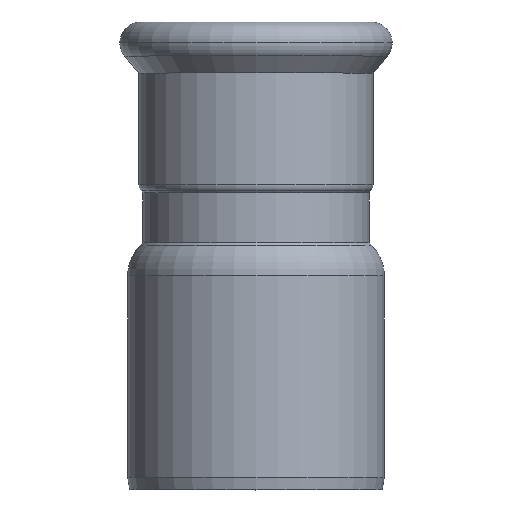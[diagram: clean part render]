
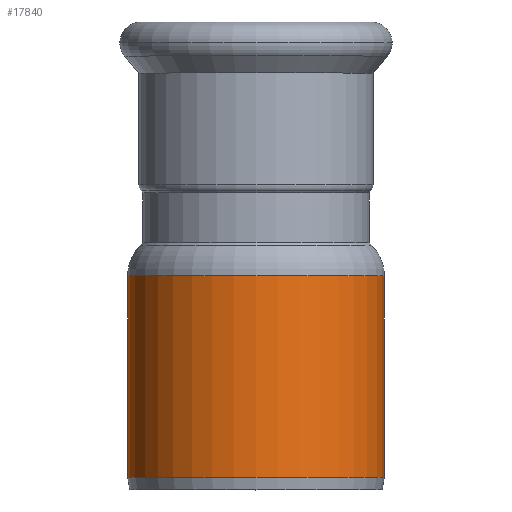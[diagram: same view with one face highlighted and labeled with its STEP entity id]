
A CAD part, top view. The second image highlights one B-rep face of the part: STEP entity #17840.
In plain terms, the highlighted cylindrical face has radius 21 mm (diameter 42 mm), a partial arc.
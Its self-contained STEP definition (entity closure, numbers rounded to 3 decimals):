
#1890=CARTESIAN_POINT('',(-202.976,33.421,0.));
#1900=DIRECTION('',(0.,-1.,0.));
#1910=DIRECTION('',(1.,0.,0.));
#1920=AXIS2_PLACEMENT_3D('',#1890,#1900,#1910);
#1930=CYLINDRICAL_SURFACE('',#1920,21.);
#1940=CARTESIAN_POINT('',(-181.976,33.421,0.));
#1950=DIRECTION('',(0.,-1.,0.));
#1960=VECTOR('',#1950,1.);
#1970=LINE('',#1940,#1960);
#1980=CARTESIAN_POINT('',(-181.976,20.621,0.));
#1990=VERTEX_POINT('',#1980);
#2000=CARTESIAN_POINT('',(-181.976,-12.379,0.));
#2010=VERTEX_POINT('',#2000);
#2020=EDGE_CURVE('',#1990,#2010,#1970,.T.);
#2040=CARTESIAN_POINT('',(-202.976,20.621,0.));
#2050=DIRECTION('',(0.,-1.,0.));
#2060=DIRECTION('',(-1.,0.,0.));
#2070=AXIS2_PLACEMENT_3D('',#2040,#2050,#2060);
#2080=CIRCLE('',#2070,21.);
#2090=CARTESIAN_POINT('',(-223.976,20.621,0.));
#2100=VERTEX_POINT('',#2090);
#2130=CARTESIAN_POINT('',(-223.976,33.421,
0.));
#2140=DIRECTION('',(0.,-1.,0.));
#2150=VECTOR('',#2140,1.);
#2160=LINE('',#2130,#2150);
#2170=CARTESIAN_POINT('',(-223.976,-12.379,
0.));
#2180=VERTEX_POINT('',#2170);
#2190=EDGE_CURVE('',#2100,#2180,#2160,.T.);
#2210=CARTESIAN_POINT('',(-202.976,-12.379,0.));
#2220=DIRECTION('',(0.,-1.,0.));
#2230=DIRECTION('',(-1.,0.,0.));
#2240=AXIS2_PLACEMENT_3D('',#2210,#2220,#2230);
#2250=CIRCLE('',#2240,21.);
#3650=EDGE_CURVE('',#1990,#2100,#2080,.T.);
#17390=EDGE_CURVE('',#2010,#2180,#2250,.T.);
#17780=ORIENTED_EDGE('',*,*,#2020,.F.);
#17790=ORIENTED_EDGE('',*,*,#17390,.F.);
#17800=ORIENTED_EDGE('',*,*,#2190,.T.);
#17810=ORIENTED_EDGE('',*,*,#3650,.T.);
#17820=EDGE_LOOP('',(#17810,#17800,#17790,#17780));
#17830=FACE_OUTER_BOUND('',#17820,.T.);
#17840=ADVANCED_FACE('',(#17830),#1930,.T.);
